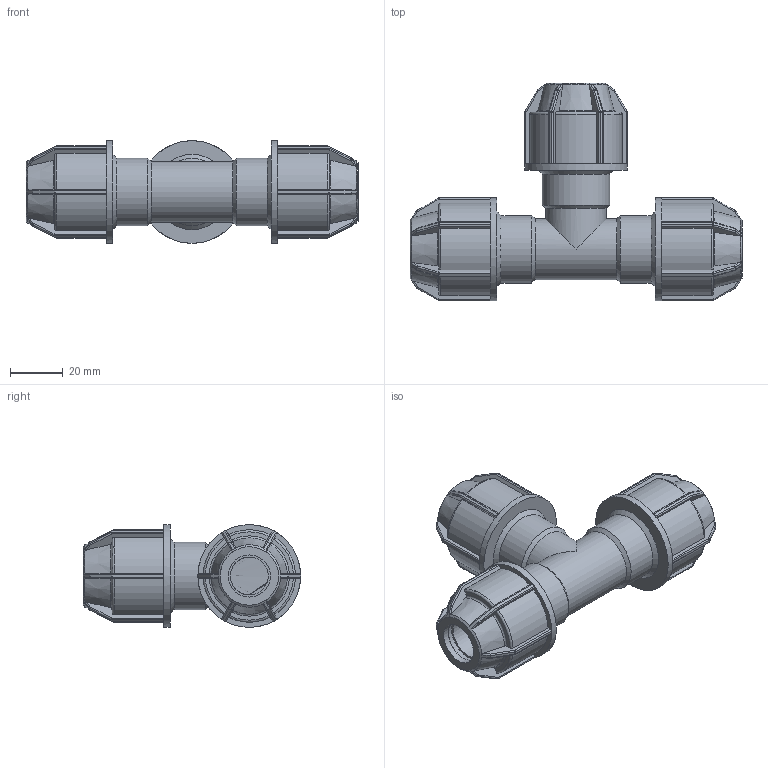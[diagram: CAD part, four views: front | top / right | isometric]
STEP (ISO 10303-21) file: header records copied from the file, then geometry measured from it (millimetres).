
FILE_DESCRIPTION(/* description */ ('PLASSON L.14 TEE (SILVER) 16-16-16'),/* implementation_level */ '2;1');
FILE_NAME(/* name */ 'C:\Dropbox\KIMPROJECTS-Inventor\99-16-3568-Processing\Silver+MF ISRAEL\140400\140400016.ipt.stp',/* time_stamp */ '2018-04-09T13:03:26+03:00',/* author */ ('KIM'),/* organization */ (''),/* preprocessor_version */ 'ST-DEVELOPER v15.6',/* originating_system */ 'Autodesk Inventor 2015',/* authorisation */ '');
FILE_SCHEMA (('AUTOMOTIVE_DESIGN { 1 0 10303 214 3 1 1 }'));
Length unit declared in the file: millimetre
Products named in the file (1): 140400016
Bounding box: 126 x 82.5 x 39 mm (x, y, z)
Volume: 88221.8 mm3; surface area: 31462.2 mm2
Topology: 1 solids, 1 shells, 608 faces, 1451 edges, 834 vertices
Faces by surface type: plane 289, cylinder 178, sphere 72, torus 42, cone 27
Full cylindrical faces by diameter (mm): 14.4 x2, 16 x6, 23.04 x2, 25.6 x3, 39 x3
Entity records: 17600 total; most frequent: CARTESIAN_POINT 4492, DIRECTION 2760, ORIENTED_EDGE 2708, EDGE_CURVE 1354, AXIS2_PLACEMENT_3D 1110, VERTEX_POINT 796, EDGE_LOOP 646, FACE_OUTER_BOUND 601
